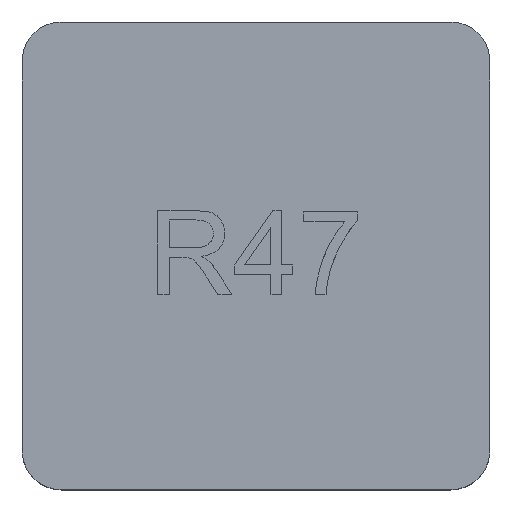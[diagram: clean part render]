
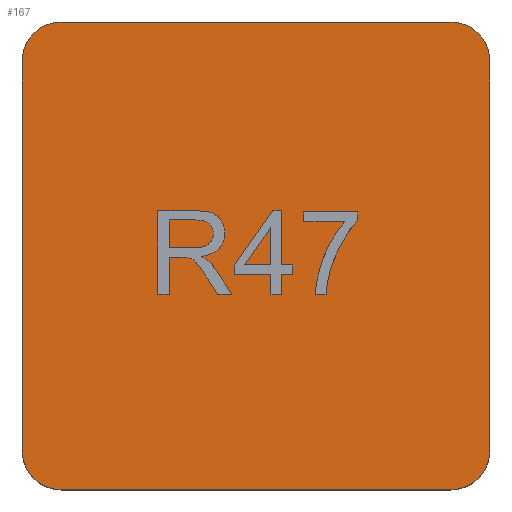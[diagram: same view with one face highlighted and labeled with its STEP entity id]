
A CAD part, top view. The second image highlights one B-rep face of the part: STEP entity #167.
In plain terms, the highlighted planar face has unit normal (0, 0, 1).
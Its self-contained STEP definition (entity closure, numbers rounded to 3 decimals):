
#51 = EDGE_CURVE('',#52,#54,#56,.T.);
#52 = VERTEX_POINT('',#53);
#53 = CARTESIAN_POINT('',(-2.,-1.667,2.1));
#54 = VERTEX_POINT('',#55);
#55 = CARTESIAN_POINT('',(-2.,1.667,2.1));
#56 = SURFACE_CURVE('',#57,(#61,#73),.PCURVE_S1.);
#57 = LINE('',#58,#59);
#58 = CARTESIAN_POINT('',(-2.,-2.,2.1));
#59 = VECTOR('',#60,1.);
#60 = DIRECTION('',(0.,1.,0.));
#61 = PCURVE('',#62,#67);
#62 = PLANE('',#63);
#63 = AXIS2_PLACEMENT_3D('',#64,#65,#66);
#64 = CARTESIAN_POINT('',(-2.,-2.,0.15));
#65 = DIRECTION('',(1.,0.,0.));
#66 = DIRECTION('',(0.,0.,1.));
#67 = DEFINITIONAL_REPRESENTATION('',(#68),#72);
#68 = LINE('',#69,#70);
#69 = CARTESIAN_POINT('',(1.95,0.));
#70 = VECTOR('',#71,1.);
#71 = DIRECTION('',(0.,-1.));
#72 = ( GEOMETRIC_REPRESENTATION_CONTEXT(2) 
PARAMETRIC_REPRESENTATION_CONTEXT() REPRESENTATION_CONTEXT('2D SPACE',''
  ) );
#73 = PCURVE('',#74,#79);
#74 = PLANE('',#75);
#75 = AXIS2_PLACEMENT_3D('',#76,#77,#78);
#76 = CARTESIAN_POINT('',(-2.,-2.,2.1));
#77 = DIRECTION('',(0.,0.,1.));
#78 = DIRECTION('',(1.,0.,0.));
#79 = DEFINITIONAL_REPRESENTATION('',(#80),#84);
#80 = LINE('',#81,#82);
#81 = CARTESIAN_POINT('',(0.,0.));
#82 = VECTOR('',#83,1.);
#83 = DIRECTION('',(0.,1.));
#84 = ( GEOMETRIC_REPRESENTATION_CONTEXT(2) 
PARAMETRIC_REPRESENTATION_CONTEXT() REPRESENTATION_CONTEXT('2D SPACE',''
  ) );
#102 = CYLINDRICAL_SURFACE('',#103,0.333);
#103 = AXIS2_PLACEMENT_3D('',#104,#105,#106);
#104 = CARTESIAN_POINT('',(-1.667,-1.667,0.15));
#105 = DIRECTION('',(0.,0.,1.));
#106 = DIRECTION('',(-1.,-0.,0.));
#156 = CYLINDRICAL_SURFACE('',#157,0.333);
#157 = AXIS2_PLACEMENT_3D('',#158,#159,#160);
#158 = CARTESIAN_POINT('',(-1.667,1.667,0.15));
#159 = DIRECTION('',(0.,0.,1.));
#160 = DIRECTION('',(-1.,-0.,0.));
#167 = ADVANCED_FACE('',(#168),#74,.T.);
#168 = FACE_BOUND('',#169,.T.);
#169 = EDGE_LOOP('',(#170,#171,#195,#223,#256,#284,#313,#341));
#170 = ORIENTED_EDGE('',*,*,#51,.F.);
#171 = ORIENTED_EDGE('',*,*,#172,.T.);
#172 = EDGE_CURVE('',#52,#173,#175,.T.);
#173 = VERTEX_POINT('',#174);
#174 = CARTESIAN_POINT('',(-1.667,-2.,2.1));
#175 = SURFACE_CURVE('',#176,(#181,#188),.PCURVE_S1.);
#176 = CIRCLE('',#177,0.333);
#177 = AXIS2_PLACEMENT_3D('',#178,#179,#180);
#178 = CARTESIAN_POINT('',(-1.667,-1.667,2.1));
#179 = DIRECTION('',(0.,0.,1.));
#180 = DIRECTION('',(0.,-1.,0.));
#181 = PCURVE('',#74,#182);
#182 = DEFINITIONAL_REPRESENTATION('',(#183),#187);
#183 = CIRCLE('',#184,0.333);
#184 = AXIS2_PLACEMENT_2D('',#185,#186);
#185 = CARTESIAN_POINT('',(0.333,0.333));
#186 = DIRECTION('',(0.,-1.));
#187 = ( GEOMETRIC_REPRESENTATION_CONTEXT(2) 
PARAMETRIC_REPRESENTATION_CONTEXT() REPRESENTATION_CONTEXT('2D SPACE',''
  ) );
#188 = PCURVE('',#102,#189);
#189 = DEFINITIONAL_REPRESENTATION('',(#190),#194);
#190 = LINE('',#191,#192);
#191 = CARTESIAN_POINT('',(-4.712,1.95));
#192 = VECTOR('',#193,1.);
#193 = DIRECTION('',(1.,0.));
#194 = ( GEOMETRIC_REPRESENTATION_CONTEXT(2) 
PARAMETRIC_REPRESENTATION_CONTEXT() REPRESENTATION_CONTEXT('2D SPACE',''
  ) );
#195 = ORIENTED_EDGE('',*,*,#196,.T.);
#196 = EDGE_CURVE('',#173,#197,#199,.T.);
#197 = VERTEX_POINT('',#198);
#198 = CARTESIAN_POINT('',(1.667,-2.,2.1));
#199 = SURFACE_CURVE('',#200,(#204,#211),.PCURVE_S1.);
#200 = LINE('',#201,#202);
#201 = CARTESIAN_POINT('',(-2.,-2.,2.1));
#202 = VECTOR('',#203,1.);
#203 = DIRECTION('',(1.,0.,0.));
#204 = PCURVE('',#74,#205);
#205 = DEFINITIONAL_REPRESENTATION('',(#206),#210);
#206 = LINE('',#207,#208);
#207 = CARTESIAN_POINT('',(0.,0.));
#208 = VECTOR('',#209,1.);
#209 = DIRECTION('',(1.,0.));
#210 = ( GEOMETRIC_REPRESENTATION_CONTEXT(2) 
PARAMETRIC_REPRESENTATION_CONTEXT() REPRESENTATION_CONTEXT('2D SPACE',''
  ) );
#211 = PCURVE('',#212,#217);
#212 = PLANE('',#213);
#213 = AXIS2_PLACEMENT_3D('',#214,#215,#216);
#214 = CARTESIAN_POINT('',(-2.,-2.,0.15));
#215 = DIRECTION('',(0.,1.,0.));
#216 = DIRECTION('',(0.,0.,1.));
#217 = DEFINITIONAL_REPRESENTATION('',(#218),#222);
#218 = LINE('',#219,#220);
#219 = CARTESIAN_POINT('',(1.95,0.));
#220 = VECTOR('',#221,1.);
#221 = DIRECTION('',(0.,1.));
#222 = ( GEOMETRIC_REPRESENTATION_CONTEXT(2) 
PARAMETRIC_REPRESENTATION_CONTEXT() REPRESENTATION_CONTEXT('2D SPACE',''
  ) );
#223 = ORIENTED_EDGE('',*,*,#224,.F.);
#224 = EDGE_CURVE('',#225,#197,#227,.T.);
#225 = VERTEX_POINT('',#226);
#226 = CARTESIAN_POINT('',(2.,-1.667,2.1));
#227 = SURFACE_CURVE('',#228,(#233,#244),.PCURVE_S1.);
#228 = CIRCLE('',#229,0.333);
#229 = AXIS2_PLACEMENT_3D('',#230,#231,#232);
#230 = CARTESIAN_POINT('',(1.667,-1.667,2.1));
#231 = DIRECTION('',(-0.,-0.,-1.));
#232 = DIRECTION('',(0.,-1.,0.));
#233 = PCURVE('',#74,#234);
#234 = DEFINITIONAL_REPRESENTATION('',(#235),#243);
#235 = ( BOUNDED_CURVE() B_SPLINE_CURVE(2,(#236,#237,#238,#239,#240,#241
,#242),.UNSPECIFIED.,.T.,.F.) B_SPLINE_CURVE_WITH_KNOTS((1,2,2,2,2,1),(
    -2.094,0.,2.094,4.189,6.283,
8.378),.UNSPECIFIED.) CURVE() GEOMETRIC_REPRESENTATION_ITEM() 
RATIONAL_B_SPLINE_CURVE((1.,0.5,1.,0.5,1.,0.5,1.)) REPRESENTATION_ITEM(
  '') );
#236 = CARTESIAN_POINT('',(3.667,0.));
#237 = CARTESIAN_POINT('',(3.089,0.));
#238 = CARTESIAN_POINT('',(3.378,0.5));
#239 = CARTESIAN_POINT('',(3.667,1.));
#240 = CARTESIAN_POINT('',(3.955,0.5));
#241 = CARTESIAN_POINT('',(4.244,0.));
#242 = CARTESIAN_POINT('',(3.667,0.));
#243 = ( GEOMETRIC_REPRESENTATION_CONTEXT(2) 
PARAMETRIC_REPRESENTATION_CONTEXT() REPRESENTATION_CONTEXT('2D SPACE',''
  ) );
#244 = PCURVE('',#245,#250);
#245 = CYLINDRICAL_SURFACE('',#246,0.333);
#246 = AXIS2_PLACEMENT_3D('',#247,#248,#249);
#247 = CARTESIAN_POINT('',(1.667,-1.667,0.15));
#248 = DIRECTION('',(0.,0.,1.));
#249 = DIRECTION('',(1.,0.,-0.));
#250 = DEFINITIONAL_REPRESENTATION('',(#251),#255);
#251 = LINE('',#252,#253);
#252 = CARTESIAN_POINT('',(4.712,1.95));
#253 = VECTOR('',#254,1.);
#254 = DIRECTION('',(-1.,0.));
#255 = ( GEOMETRIC_REPRESENTATION_CONTEXT(2) 
PARAMETRIC_REPRESENTATION_CONTEXT() REPRESENTATION_CONTEXT('2D SPACE',''
  ) );
#256 = ORIENTED_EDGE('',*,*,#257,.T.);
#257 = EDGE_CURVE('',#225,#258,#260,.T.);
#258 = VERTEX_POINT('',#259);
#259 = CARTESIAN_POINT('',(2.,1.667,2.1));
#260 = SURFACE_CURVE('',#261,(#265,#272),.PCURVE_S1.);
#261 = LINE('',#262,#263);
#262 = CARTESIAN_POINT('',(2.,-2.,2.1));
#263 = VECTOR('',#264,1.);
#264 = DIRECTION('',(0.,1.,0.));
#265 = PCURVE('',#74,#266);
#266 = DEFINITIONAL_REPRESENTATION('',(#267),#271);
#267 = LINE('',#268,#269);
#268 = CARTESIAN_POINT('',(4.,0.));
#269 = VECTOR('',#270,1.);
#270 = DIRECTION('',(0.,1.));
#271 = ( GEOMETRIC_REPRESENTATION_CONTEXT(2) 
PARAMETRIC_REPRESENTATION_CONTEXT() REPRESENTATION_CONTEXT('2D SPACE',''
  ) );
#272 = PCURVE('',#273,#278);
#273 = PLANE('',#274);
#274 = AXIS2_PLACEMENT_3D('',#275,#276,#277);
#275 = CARTESIAN_POINT('',(2.,-2.,0.15));
#276 = DIRECTION('',(1.,0.,0.));
#277 = DIRECTION('',(0.,0.,1.));
#278 = DEFINITIONAL_REPRESENTATION('',(#279),#283);
#279 = LINE('',#280,#281);
#280 = CARTESIAN_POINT('',(1.95,0.));
#281 = VECTOR('',#282,1.);
#282 = DIRECTION('',(0.,-1.));
#283 = ( GEOMETRIC_REPRESENTATION_CONTEXT(2) 
PARAMETRIC_REPRESENTATION_CONTEXT() REPRESENTATION_CONTEXT('2D SPACE',''
  ) );
#284 = ORIENTED_EDGE('',*,*,#285,.T.);
#285 = EDGE_CURVE('',#258,#286,#288,.T.);
#286 = VERTEX_POINT('',#287);
#287 = CARTESIAN_POINT('',(1.667,2.,2.1));
#288 = SURFACE_CURVE('',#289,(#294,#301),.PCURVE_S1.);
#289 = CIRCLE('',#290,0.333);
#290 = AXIS2_PLACEMENT_3D('',#291,#292,#293);
#291 = CARTESIAN_POINT('',(1.667,1.667,2.1));
#292 = DIRECTION('',(0.,0.,1.));
#293 = DIRECTION('',(0.,-1.,0.));
#294 = PCURVE('',#74,#295);
#295 = DEFINITIONAL_REPRESENTATION('',(#296),#300);
#296 = CIRCLE('',#297,0.333);
#297 = AXIS2_PLACEMENT_2D('',#298,#299);
#298 = CARTESIAN_POINT('',(3.667,3.667));
#299 = DIRECTION('',(0.,-1.));
#300 = ( GEOMETRIC_REPRESENTATION_CONTEXT(2) 
PARAMETRIC_REPRESENTATION_CONTEXT() REPRESENTATION_CONTEXT('2D SPACE',''
  ) );
#301 = PCURVE('',#302,#307);
#302 = CYLINDRICAL_SURFACE('',#303,0.333);
#303 = AXIS2_PLACEMENT_3D('',#304,#305,#306);
#304 = CARTESIAN_POINT('',(1.667,1.667,0.15));
#305 = DIRECTION('',(0.,0.,1.));
#306 = DIRECTION('',(1.,0.,-0.));
#307 = DEFINITIONAL_REPRESENTATION('',(#308),#312);
#308 = LINE('',#309,#310);
#309 = CARTESIAN_POINT('',(-1.571,1.95));
#310 = VECTOR('',#311,1.);
#311 = DIRECTION('',(1.,0.));
#312 = ( GEOMETRIC_REPRESENTATION_CONTEXT(2) 
PARAMETRIC_REPRESENTATION_CONTEXT() REPRESENTATION_CONTEXT('2D SPACE',''
  ) );
#313 = ORIENTED_EDGE('',*,*,#314,.F.);
#314 = EDGE_CURVE('',#315,#286,#317,.T.);
#315 = VERTEX_POINT('',#316);
#316 = CARTESIAN_POINT('',(-1.667,2.,2.1));
#317 = SURFACE_CURVE('',#318,(#322,#329),.PCURVE_S1.);
#318 = LINE('',#319,#320);
#319 = CARTESIAN_POINT('',(-2.,2.,2.1));
#320 = VECTOR('',#321,1.);
#321 = DIRECTION('',(1.,0.,0.));
#322 = PCURVE('',#74,#323);
#323 = DEFINITIONAL_REPRESENTATION('',(#324),#328);
#324 = LINE('',#325,#326);
#325 = CARTESIAN_POINT('',(0.,4.));
#326 = VECTOR('',#327,1.);
#327 = DIRECTION('',(1.,0.));
#328 = ( GEOMETRIC_REPRESENTATION_CONTEXT(2) 
PARAMETRIC_REPRESENTATION_CONTEXT() REPRESENTATION_CONTEXT('2D SPACE',''
  ) );
#329 = PCURVE('',#330,#335);
#330 = PLANE('',#331);
#331 = AXIS2_PLACEMENT_3D('',#332,#333,#334);
#332 = CARTESIAN_POINT('',(-2.,2.,0.15));
#333 = DIRECTION('',(0.,1.,0.));
#334 = DIRECTION('',(0.,0.,1.));
#335 = DEFINITIONAL_REPRESENTATION('',(#336),#340);
#336 = LINE('',#337,#338);
#337 = CARTESIAN_POINT('',(1.95,0.));
#338 = VECTOR('',#339,1.);
#339 = DIRECTION('',(0.,1.));
#340 = ( GEOMETRIC_REPRESENTATION_CONTEXT(2) 
PARAMETRIC_REPRESENTATION_CONTEXT() REPRESENTATION_CONTEXT('2D SPACE',''
  ) );
#341 = ORIENTED_EDGE('',*,*,#342,.F.);
#342 = EDGE_CURVE('',#54,#315,#343,.T.);
#343 = SURFACE_CURVE('',#344,(#349,#360),.PCURVE_S1.);
#344 = CIRCLE('',#345,0.333);
#345 = AXIS2_PLACEMENT_3D('',#346,#347,#348);
#346 = CARTESIAN_POINT('',(-1.667,1.667,2.1));
#347 = DIRECTION('',(-0.,-0.,-1.));
#348 = DIRECTION('',(0.,-1.,0.));
#349 = PCURVE('',#74,#350);
#350 = DEFINITIONAL_REPRESENTATION('',(#351),#359);
#351 = ( BOUNDED_CURVE() B_SPLINE_CURVE(2,(#352,#353,#354,#355,#356,#357
,#358),.UNSPECIFIED.,.T.,.F.) B_SPLINE_CURVE_WITH_KNOTS((1,2,2,2,2,1),(
    -2.094,0.,2.094,4.189,6.283,
8.378),.UNSPECIFIED.) CURVE() GEOMETRIC_REPRESENTATION_ITEM() 
RATIONAL_B_SPLINE_CURVE((1.,0.5,1.,0.5,1.,0.5,1.)) REPRESENTATION_ITEM(
  '') );
#352 = CARTESIAN_POINT('',(0.333,3.333));
#353 = CARTESIAN_POINT('',(-0.244,3.333));
#354 = CARTESIAN_POINT('',(0.045,3.833));
#355 = CARTESIAN_POINT('',(0.333,4.333));
#356 = CARTESIAN_POINT('',(0.622,3.833));
#357 = CARTESIAN_POINT('',(0.911,3.333));
#358 = CARTESIAN_POINT('',(0.333,3.333));
#359 = ( GEOMETRIC_REPRESENTATION_CONTEXT(2) 
PARAMETRIC_REPRESENTATION_CONTEXT() REPRESENTATION_CONTEXT('2D SPACE',''
  ) );
#360 = PCURVE('',#156,#361);
#361 = DEFINITIONAL_REPRESENTATION('',(#362),#366);
#362 = LINE('',#363,#364);
#363 = CARTESIAN_POINT('',(1.571,1.95));
#364 = VECTOR('',#365,1.);
#365 = DIRECTION('',(-1.,0.));
#366 = ( GEOMETRIC_REPRESENTATION_CONTEXT(2) 
PARAMETRIC_REPRESENTATION_CONTEXT() REPRESENTATION_CONTEXT('2D SPACE',''
  ) );
